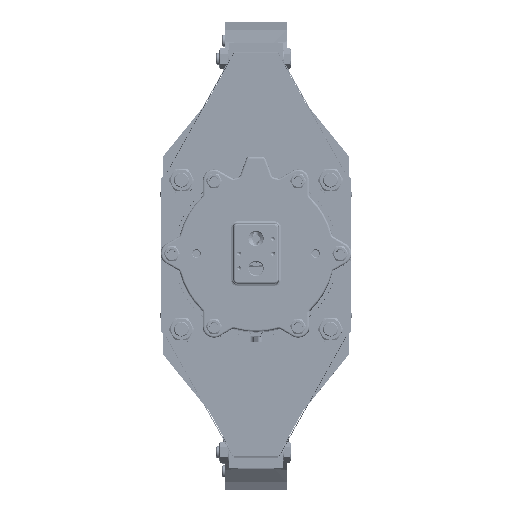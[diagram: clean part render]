
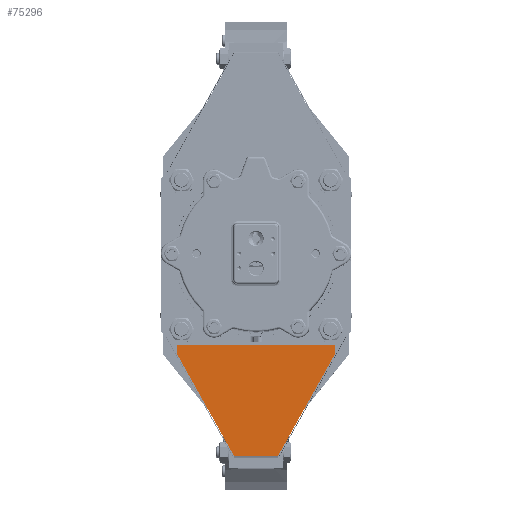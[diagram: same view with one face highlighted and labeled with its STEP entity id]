
A CAD part, top view. The second image highlights one B-rep face of the part: STEP entity #75296.
In plain terms, the highlighted planar face has unit normal (0, 0, 1).
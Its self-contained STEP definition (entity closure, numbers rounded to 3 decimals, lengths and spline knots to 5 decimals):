
#3601=PLANE('',#83651);
#10017=FACE_OUTER_BOUND('',#15111,.T.);
#15111=EDGE_LOOP('',(#69378,#69379,#69380,#69381,#69382,#69383));
#25153=LINE('',#144900,#29795);
#25156=LINE('',#144906,#29798);
#25161=LINE('',#144917,#29803);
#25163=LINE('',#144921,#29805);
#25165=LINE('',#144925,#29807);
#25167=LINE('',#144928,#29809);
#29795=VECTOR('',#104657,0.05918);
#29798=VECTOR('',#104662,0.15729);
#29803=VECTOR('',#104671,0.15729);
#29805=VECTOR('',#104675,0.012);
#29807=VECTOR('',#104679,0.21265);
#29809=VECTOR('',#104683,0.012);
#36807=VERTEX_POINT('',#144830);
#36809=VERTEX_POINT('',#144883);
#36812=VERTEX_POINT('',#144904);
#36816=VERTEX_POINT('',#144916);
#36817=VERTEX_POINT('',#144920);
#36818=VERTEX_POINT('',#144924);
#47762=EDGE_CURVE('',#36809,#36807,#25153,.T.);
#47765=EDGE_CURVE('',#36812,#36807,#25156,.T.);
#47770=EDGE_CURVE('',#36809,#36816,#25161,.T.);
#47772=EDGE_CURVE('',#36816,#36817,#25163,.T.);
#47774=EDGE_CURVE('',#36817,#36818,#25165,.T.);
#47776=EDGE_CURVE('',#36818,#36812,#25167,.T.);
#69378=ORIENTED_EDGE('',*,*,#47762,.T.);
#69379=ORIENTED_EDGE('',*,*,#47765,.F.);
#69380=ORIENTED_EDGE('',*,*,#47776,.F.);
#69381=ORIENTED_EDGE('',*,*,#47774,.F.);
#69382=ORIENTED_EDGE('',*,*,#47772,.F.);
#69383=ORIENTED_EDGE('',*,*,#47770,.F.);
#75296=ADVANCED_FACE('',(#10017),#3601,.T.);
#83651=AXIS2_PLACEMENT_3D('',#144929,#104684,#104685);
#104657=DIRECTION('',(1.,0.,0.));
#104662=DIRECTION('',(-0.488,-0.873,0.));
#104671=DIRECTION('',(-0.488,0.873,0.));
#104675=DIRECTION('',(0.,1.,0.));
#104679=DIRECTION('',(1.,0.,0.));
#104683=DIRECTION('',(0.,-1.,0.));
#104684=DIRECTION('center_axis',(0.,0.,
1.));
#104685=DIRECTION('ref_axis',(1.,0.,0.));
#144830=CARTESIAN_POINT('',(0.02959,-0.26995,1.03425));
#144883=CARTESIAN_POINT('',(-0.02959,-0.26995,1.03425));
#144900=CARTESIAN_POINT('',(-0.02959,-0.26995,1.03425));
#144904=CARTESIAN_POINT('',(0.10633,-0.13265,1.03425));
#144906=CARTESIAN_POINT('',(0.10633,-0.13265,1.03425));
#144916=CARTESIAN_POINT('',(-0.10633,-0.13265,1.03425));
#144917=CARTESIAN_POINT('',(-0.02959,-0.26995,1.03425));
#144920=CARTESIAN_POINT('',(-0.10633,-0.12065,1.03425));
#144921=CARTESIAN_POINT('',(-0.10633,-0.13265,1.03425));
#144924=CARTESIAN_POINT('',(0.10633,-0.12065,1.03425));
#144925=CARTESIAN_POINT('',(-0.10633,-0.12065,1.03425));
#144928=CARTESIAN_POINT('',(0.10633,-0.12065,1.03425));
#144929=CARTESIAN_POINT('Origin',(0.,-0.17712,
1.03425));
